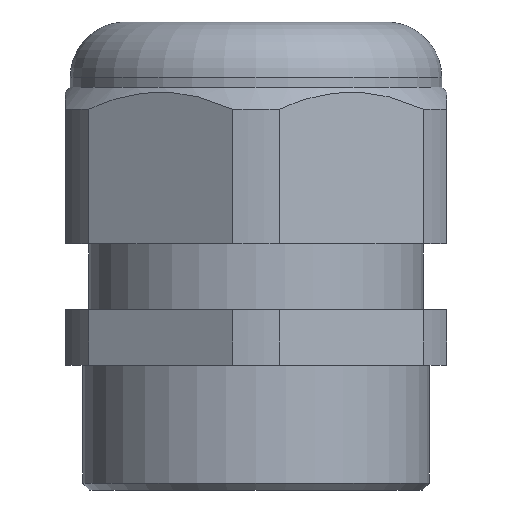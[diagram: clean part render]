
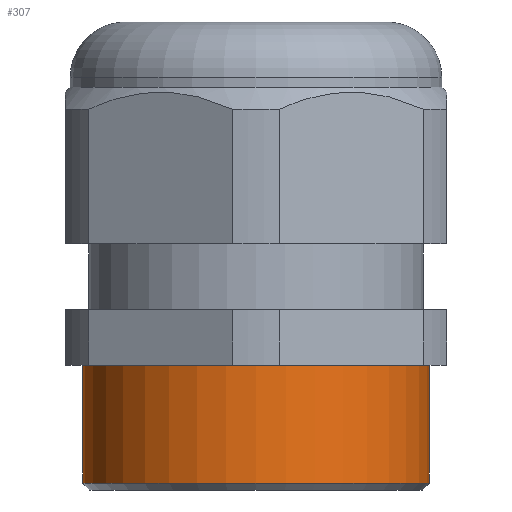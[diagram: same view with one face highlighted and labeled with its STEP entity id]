
A CAD part, front view. The second image highlights one B-rep face of the part: STEP entity #307.
In plain terms, the highlighted cylindrical face has radius 25 mm (diameter 50 mm), a partial arc.
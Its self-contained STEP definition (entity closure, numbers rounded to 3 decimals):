
#77 = VERTEX_POINT ( 'NONE', #1238 ) ;
#127 = VERTEX_POINT ( 'NONE', #1344 ) ;
#138 = VERTEX_POINT ( 'NONE', #1333 ) ;
#153 = EDGE_CURVE ( 'NONE', #127, #161, #1372, .T. ) ;
#161 = VERTEX_POINT ( 'NONE', #1379 ) ;
#164 = EDGE_CURVE ( 'NONE', #77, #138, #1294, .T. ) ;
#307 = ADVANCED_FACE ( 'NONE', ( #466 ), #458, .T. ) ;
#308 = ORIENTED_EDGE ( 'NONE', *, *, #164, .F. ) ;
#309 = ORIENTED_EDGE ( 'NONE', *, *, #320, .T. ) ;
#318 = EDGE_LOOP ( 'NONE', ( #308, #309, #321, #334 ) ) ;
#320 = EDGE_CURVE ( 'NONE', #77, #127, #444, .T. ) ;
#321 = ORIENTED_EDGE ( 'NONE', *, *, #153, .T. ) ;
#326 = EDGE_CURVE ( 'NONE', #138, #161, #438, .T. ) ;
#334 = ORIENTED_EDGE ( 'NONE', *, *, #326, .F. ) ;
#434 = DIRECTION ( 'NONE',  ( -1., 0., 0. ) ) ;
#435 = DIRECTION ( 'NONE',  ( 0., 0., -1. ) ) ;
#436 = CARTESIAN_POINT ( 'NONE',  ( 0., 0., 1. ) ) ;
#437 = AXIS2_PLACEMENT_3D ( 'NONE', #436, #435, #434 ) ;
#438 = CIRCLE ( 'NONE', #437, 25. ) ;
#440 = DIRECTION ( 'NONE',  ( -1., 0., 0. ) ) ;
#441 = DIRECTION ( 'NONE',  ( 0., 0., -1. ) ) ;
#442 = CARTESIAN_POINT ( 'NONE',  ( 0., 0., 18. ) ) ;
#443 = AXIS2_PLACEMENT_3D ( 'NONE', #442, #441, #440 ) ;
#444 = CIRCLE ( 'NONE', #443, 25. ) ;
#455 = DIRECTION ( 'NONE',  ( -1., 0., 0. ) ) ;
#456 = DIRECTION ( 'NONE',  ( 0., 0., -1. ) ) ;
#457 = AXIS2_PLACEMENT_3D ( 'NONE', #460, #456, #455 ) ;
#458 = CYLINDRICAL_SURFACE ( 'NONE', #457, 25. ) ;
#460 = CARTESIAN_POINT ( 'NONE',  ( 0., 0., 0. ) ) ;
#466 = FACE_OUTER_BOUND ( 'NONE', #318, .T. ) ;
#1238 = CARTESIAN_POINT ( 'NONE',  ( 25., 0., 18. ) ) ;
#1293 = DIRECTION ( 'NONE',  ( 0., 0., -1. ) ) ;
#1294 = LINE ( 'NONE', #1297, #1296 ) ;
#1296 = VECTOR ( 'NONE', #1293, 1000. ) ;
#1297 = CARTESIAN_POINT ( 'NONE',  ( 25., 0., 0. ) ) ;
#1333 = CARTESIAN_POINT ( 'NONE',  ( 25., 0., 1. ) ) ;
#1344 = CARTESIAN_POINT ( 'NONE',  ( -25., 0., 18. ) ) ;
#1369 = DIRECTION ( 'NONE',  ( 0., 0., -1. ) ) ;
#1370 = VECTOR ( 'NONE', #1369, 1000. ) ;
#1371 = CARTESIAN_POINT ( 'NONE',  ( -25., 0., 0. ) ) ;
#1372 = LINE ( 'NONE', #1371, #1370 ) ;
#1379 = CARTESIAN_POINT ( 'NONE',  ( -25., 0., 1. ) ) ;
